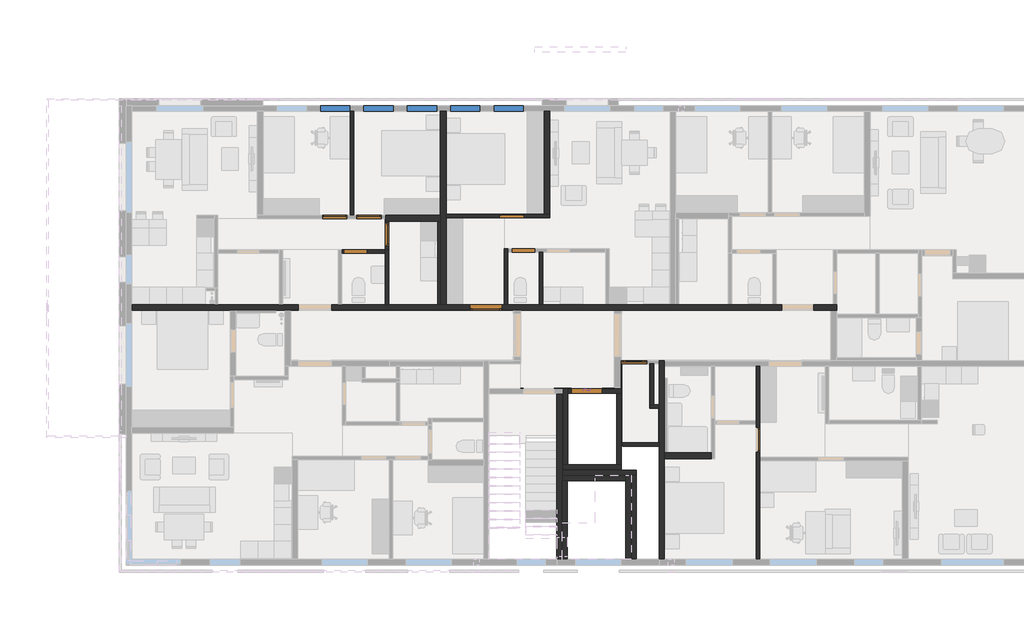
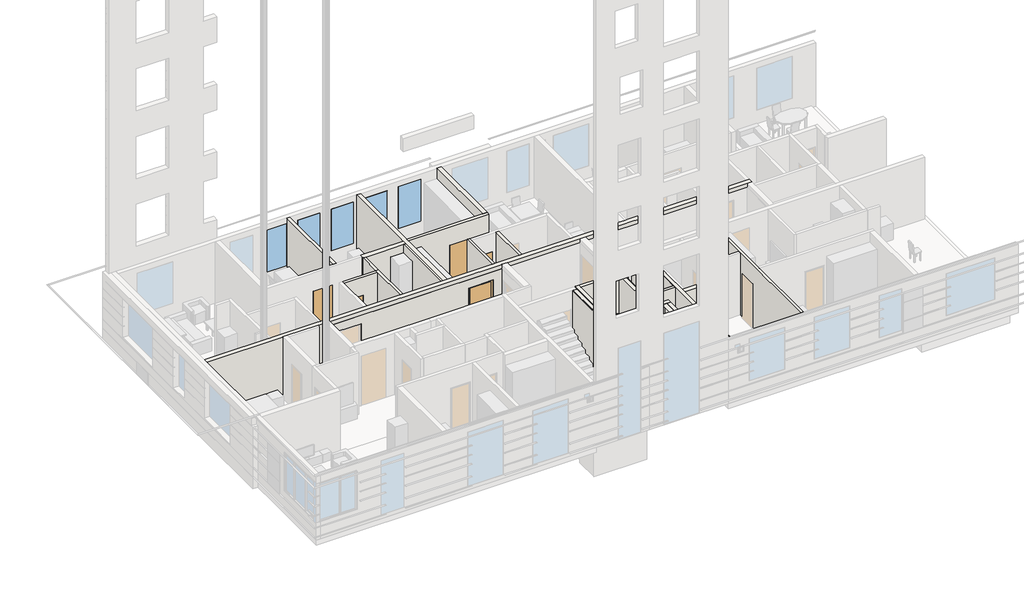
# One storey, part 5 of 11: 37 walls, 18 doors, 7 windows.
"""IFC4 building model written with IfcOpenShell, lengths in millimetres."""

from ifc_helpers import new_model, si_unit, frame, origin, place, context, project, spatial, polyline, circle_curve, outline, extrude, faceted_brep, transform, mapped, element, save
from ifc_brep_helpers import plane_surface, revolved_surface, advanced_brep
from components import door_1f93f5fc, door_d7ad1108, door_3b0bb860, door_b8e875bd, door_673f646d, door_87123fce, door_73803761, door_6199b08a, door_1132ae02, door_86771e29, window_19e0ad27, window_6752e5d0, window_588b83ed

model = new_model("IFC4")

# Units and contexts
model_context = context("Model", 3, world=origin())
ifc_project = project(units=[si_unit("LENGTHUNIT", "METRE", prefix="MILLI")], contexts=[model_context])

# Site, building, storey
site = spatial("IfcSite", under=ifc_project)
building = spatial("IfcBuilding", under=site)
storey = spatial("IfcBuildingStorey", under=building, Name="02_+4,400_Ж", Elevation=1200.0)

# Doors
placement = place(None, origin())
door_shape = door_1f93f5fc(model_context)
element("IfcDoor", 1, ObjectType="Dr_Проем-Простой : ДВ", at=placement, inside=storey, context=model_context, shape_type="MappedRepresentation", body=[
    mapped(door_shape, transform((142020.3230165, 120599.9999987, 1200.0), x_axis=(-1.0, 0.0, 0.0), y_axis=(0.0, -1.0, 0.0), z_axis=(0.0, 0.0, 1.0))),
])
door_2_shape = door_d7ad1108(model_context)
element("IfcDoor", 2, ObjectType="Dr_Проем-Простой : ДВ", at=placement, inside=storey, context=model_context, shape_type="MappedRepresentation", body=[
    mapped(door_2_shape, transform((146894.6769838, 118639.9999987, 1200.0), x_axis=(1.0, 0.0, 0.0), y_axis=(0.0, 1.0, 0.0), z_axis=(0.0, 0.0, 1.0))),
])
door_3_shape = door_3b0bb860(model_context)
element("IfcDoor", 3, ObjectType="Dr_Проем-Простой : ДВ", at=placement, inside=storey, context=model_context, shape_type="MappedRepresentation", body=[
    mapped(door_3_shape, transform((138277.5000001, 123400.3230151, 1200.0), x_axis=(0.0, -1.0, 0.0), y_axis=(1.0, 0.0, 0.0), z_axis=(0.0, 0.0, 1.0))),
])
element("IfcDoor", 4, ObjectType="Dr_Проем-Простой : ДВ", at=placement, inside=storey, context=model_context, shape_type="MappedRepresentation", body=[
    mapped(door_3_shape, transform((136959.6769838, 122592.4999987, 1200.0), x_axis=(1.0, 0.0, 0.0), y_axis=(0.0, 1.0, 0.0), z_axis=(0.0, 0.0, 1.0))),
])
element("IfcDoor", 5, ObjectType="Dr_Проем-Простой : ДВ", at=placement, inside=storey, context=model_context, shape_type="MappedRepresentation", body=[
    mapped(door_3_shape, transform((142950.1769838, 122637.4999987, 1200.0), x_axis=(1.0, 0.0, 0.0), y_axis=(0.0, 1.0, 0.0), z_axis=(0.0, 0.0, 1.0))),
])
door_4_shape = door_b8e875bd(model_context)
element("IfcDoor", 6, ObjectType="Dr_Проем-Простой : ДВ", at=placement, inside=storey, context=model_context, shape_type="MappedRepresentation", body=[
    mapped(door_4_shape, transform((136209.6769838, 123817.4999987, 1200.0), x_axis=(1.0, 0.0, 0.0), y_axis=(0.0, 1.0, 0.0), z_axis=(0.0, 0.0, 1.0))),
])
element("IfcDoor", 7, ObjectType="Dr_Проем-Простой : ДВ", at=placement, inside=storey, context=model_context, shape_type="MappedRepresentation", body=[
    mapped(door_4_shape, transform((142534.6769838, 123867.4999987, 1200.0), x_axis=(1.0, 0.0, 0.0), y_axis=(0.0, 1.0, 0.0), z_axis=(0.0, 0.0, 1.0))),
])
element("IfcDoor", 8, ObjectType="Dr_Проем-Простой : ДВ", at=placement, inside=storey, context=model_context, shape_type="MappedRepresentation", body=[
    mapped(door_4_shape, transform((137434.6769838, 123817.4999987, 1200.0), x_axis=(1.0, 0.0, 0.0), y_axis=(0.0, 1.0, 0.0), z_axis=(0.0, 0.0, 1.0))),
])
door_5_shape = door_673f646d(model_context)
element("IfcDoor", 9, ObjectType="Dr_Проем-Простой : ПР", at=placement, inside=storey, context=model_context, shape_type="MappedRepresentation", body=[
    mapped(door_5_shape, transform((145209.6769835, 117619.9999987, 1200.0), x_axis=(1.0, 0.0, 0.0), y_axis=(0.0, 1.0, 0.0), z_axis=(0.0, 0.0, 1.0))),
])
door_6_shape = door_87123fce(model_context)
element("IfcDoor", 10, ObjectType="Dr_Дверь_v2.1 : ДМ Мд1 Зв3 Оп Г Брг 21-9 Л", at=placement, inside=storey, context=model_context, shape_type="MappedRepresentation", body=[
    mapped(door_6_shape, transform((142615.0000001, 123867.4999987, 1200.0), x_axis=(1.0, 0.0, 0.0), y_axis=(0.0, 1.0, 0.0), z_axis=(0.0, 0.0, 1.0))),
])
door_7_shape = door_73803761(model_context)
element("IfcDoor", 11, ObjectType="Dr_Дверь_v2.1 : ДВПС Оп Г 24-11,5 Л EI30", at=placement, inside=storey, context=model_context, shape_type="MappedRepresentation", body=[
    mapped(door_7_shape, transform((141940.0000001, 120599.9999987, 1200.0), x_axis=(-1.0, 0.0, 0.0), y_axis=(0.0, -1.0, 0.0), z_axis=(0.0, 0.0, 1.0))),
])
door_8_shape = door_6199b08a(model_context)
element("IfcDoor", 12, ObjectType="Dr_Дверь_v2.1 : ДМ Мд1 Зв3 Оп Г Брг 21-9", at=placement, inside=storey, context=model_context, shape_type="MappedRepresentation", body=[
    mapped(door_8_shape, transform((137515.0000001, 123817.4999987, 1200.0), x_axis=(1.0, 0.0, 0.0), y_axis=(0.0, 1.0, 0.0), z_axis=(0.0, 0.0, 1.0))),
])
element("IfcDoor", 13, ObjectType="Dr_Дверь_v2.1 : ДМ Мд1 Зв3 Оп Г Брг 21-9 Л", at=placement, inside=storey, context=model_context, shape_type="MappedRepresentation", body=[
    mapped(door_6_shape, transform((136290.0000001, 123817.4999987, 1200.0), x_axis=(1.0, 0.0, 0.0), y_axis=(0.0, 1.0, 0.0), z_axis=(0.0, 0.0, 1.0))),
])
element("IfcDoor", 14, ObjectType="Dr_Дверь_v2.1 : ДМ Мд1 Зв3 Оп Г Брг 21-9 Л", at=placement, inside=storey, context=model_context, shape_type="MappedRepresentation", body=[
    mapped(door_6_shape, transform((151517.5000001, 115999.9999987, 1200.0), x_axis=(0.0, -1.0, 0.0), y_axis=(1.0, 0.0, 0.0), z_axis=(0.0, 0.0, 1.0))),
])
door_9_shape = door_1132ae02(model_context)
element("IfcDoor", 15, ObjectType="Dr_Дверь_v2.1 : ДС Мд1 Оп Г Брг 21-8", at=placement, inside=storey, context=model_context, shape_type="MappedRepresentation", body=[
    mapped(door_9_shape, transform((138277.5000001, 123319.9999987, 1200.0), x_axis=(0.0, -1.0, 0.0), y_axis=(1.0, 0.0, 0.0), z_axis=(0.0, 0.0, 1.0))),
])
element("IfcDoor", 16, ObjectType="Dr_Дверь_v2.1 : ДС Мд1 Оп Г Брг 21-8", at=placement, inside=storey, context=model_context, shape_type="MappedRepresentation", body=[
    mapped(door_9_shape, transform((137040.0000001, 122592.4999987, 1200.0), x_axis=(1.0, 0.0, 0.0), y_axis=(0.0, 1.0, 0.0), z_axis=(0.0, 0.0, 1.0))),
])
element("IfcDoor", 17, ObjectType="Dr_Дверь_v2.1 : ДС Мд1 Оп Г Брг 21-8", at=placement, inside=storey, context=model_context, shape_type="MappedRepresentation", body=[
    mapped(door_9_shape, transform((143030.5000001, 122637.4999987, 1200.0), x_axis=(1.0, 0.0, 0.0), y_axis=(0.0, 1.0, 0.0), z_axis=(0.0, 0.0, 1.0))),
])
door_10_shape = door_86771e29(model_context)
element("IfcDoor", 18, ObjectType="Dr_Дверь_v2.1 : ДВСГ Брг 21-9_с вент решеткой", at=placement, inside=storey, context=model_context, shape_type="MappedRepresentation", body=[
    mapped(door_10_shape, transform((146975.0000002, 118639.9999987, 1200.0), x_axis=(1.0, 0.0, 0.0), y_axis=(0.0, 1.0, 0.0), z_axis=(0.0, 0.0, 1.0))),
])

# Walls
element("IfcWall", 19, ObjectType="BW_SUB_GKL_INT_125_Тип П9.1-------", at=placement, inside=storey, context=model_context, shape_type="SweptSolid", body=[
    extrude(outline(polyline([(137090.0000001, 127599.9999987), (137090.0000001, 123879.9999987), (136965.0000001, 123879.9999987), (136965.0000001, 127599.9999987), (137090.0000001, 127599.9999987)])), frame((0.0, 0.0, 1180.0), z_axis=(0.0, 0.0, 1.0), x_axis=(1.0, 0.0, 0.0)), (0.0, 0.0, 1.0), 3020.0),
])
element("IfcWall", 20, ObjectType="BW_SUB_GKL_INT_210_Тип П10.2-------", at=placement, inside=storey, context=model_context, shape_type="Brep", body=[
    faceted_brep([(140190.0000001, 123879.9999987, 1180.0), (138215.0000001, 123879.9999987, 1180.0), (138215.0000001, 123879.9999987, 4200.0), (140190.0000001, 123879.9999987, 4200.0), (140190.0000001, 123669.9999987, 1180.0), (140190.0000001, 123669.9999987, 4200.0), (138340.0000001, 123669.9999987, 4200.0), (138215.0000001, 123669.9999987, 4200.0), (138215.0000001, 123669.9999987, 1180.0), (138340.0000001, 123669.9999987, 1180.0), (138215.0000001, 123754.9999987, 1180.0), (138215.0000001, 123754.9999987, 4200.0)], [[[0, 1, 2, 3]], [[4, 5, 6, 7, 8, 9]], [[1, 0, 4, 9, 8, 10]], [[3, 2, 11, 7, 6, 5]], [[0, 3, 5, 4]], [[2, 1, 10, 8, 7, 11]]]),
])
element("IfcWall", 21, ObjectType="BW_SUB_GKL_INT_125_Тип П9.3-------", at=placement, inside=storey, context=model_context, shape_type="Brep", body=[
    faceted_brep([(138340.0000001, 120699.9999987, 1180.0), (138340.0000001, 122654.9999987, 1180.0), (138340.0000001, 122654.9999987, 4200.0), (138340.0000001, 120699.9999987, 4200.0), (138215.0000001, 120699.9999987, 1180.0), (138215.0000001, 120699.9999987, 4200.0), (138215.0000001, 122529.9999987, 4200.0), (138215.0000001, 122654.9999987, 4200.0), (138215.0000001, 122654.9999987, 1180.0), (138215.0000001, 122529.9999987, 1180.0)], [[[0, 1, 2, 3]], [[4, 5, 6, 7, 8, 9]], [[1, 0, 4, 9, 8]], [[3, 2, 7, 6, 5]], [[0, 3, 5, 4]], [[2, 1, 8, 7]]]),
])
element("IfcWall", 22, ObjectType="BW_SUB_GKL_INT_125_Тип П9.2-------", at=placement, inside=storey, context=model_context, shape_type="SweptSolid", body=[
    extrude(outline(polyline([(4200.0, 138215.0000001), (4200.0, 136665.0000001), (1180.0, 136665.0000001), (1180.0, 136765.0000001), (3300.0, 136765.0000001), (3300.0, 137565.0000001), (1180.0, 137565.0000001), (1180.0, 138215.0000001), (4200.0, 138215.0000001)])), frame((0.0, 122529.9999987, 0.0), z_axis=(0.0, 1.0, 0.0), x_axis=(0.0, 0.0, 1.0)), (0.0, 0.0, 1.0), 125.0),
])
element("IfcWall", 23, ObjectType="BW_SUB_GKL_INT_125_Тип П9.1-------", at=placement, inside=storey, context=model_context, shape_type="Brep", body=[
    faceted_brep([(144100.0000001, 123804.9999987, 4200.0), (140390.0000001, 123804.9999987, 4200.0), (140390.0000001, 123804.9999987, 1180.0), (142290.0000001, 123804.9999987, 1180.0), (142290.0000001, 123804.9999987, 3300.0), (143190.0000001, 123804.9999987, 3300.0), (143190.0000001, 123804.9999987, 1180.0), (144100.0000001, 123804.9999987, 1180.0), (140390.0000001, 123929.9999987, 4200.0), (143890.0000001, 123929.9999987, 4200.0), (144100.0000001, 123929.9999987, 4200.0), (144100.0000001, 123929.9999987, 1180.0), (143890.0000001, 123929.9999987, 1180.0), (143190.0000001, 123929.9999987, 1180.0), (143190.0000001, 123929.9999987, 3300.0), (142290.0000001, 123929.9999987, 3300.0), (142290.0000001, 123929.9999987, 1180.0), (140390.0000001, 123929.9999987, 1180.0)], [[[0, 1, 2, 3, 4, 5, 6, 7]], [[8, 9, 10, 11, 12, 13, 14, 15, 16, 17]], [[2, 17, 16, 3]], [[11, 7, 6, 13, 12]], [[1, 0, 10, 9, 8]], [[2, 1, 8, 17]], [[15, 4, 3, 16]], [[5, 14, 13, 6]], [[4, 15, 14, 5]], [[0, 7, 11, 10]]]),
])
element("IfcWall", 24, ObjectType="BW_SUB_GKL_INT_210_Тип П10.1-------", at=placement, inside=storey, context=model_context, shape_type="SweptSolid", body=[
    extrude(outline(polyline([(143890.0000001, 123929.9999987), (143890.0000001, 127599.9999987), (144100.0000001, 127599.9999987), (144100.0000001, 123929.9999987), (143890.0000001, 123929.9999987)])), frame((0.0, 0.0, 1180.0), z_axis=(0.0, 0.0, 1.0), x_axis=(1.0, 0.0, 0.0)), (0.0, 0.0, 1.0), 3020.0),
])
element("IfcWall", 25, ObjectType="BW_SUB_GKL_INT_125_Тип П9.2-------", at=placement, inside=storey, context=model_context, shape_type="Brep", body=[
    faceted_brep([(142465.0000001, 122699.9999987, 1180.0), (142465.0000001, 120699.9999987, 1180.0), (142465.0000001, 120699.9999987, 4200.0), (142465.0000001, 122699.9999987, 4200.0), (142590.0000001, 122699.9999987, 1180.0), (142590.0000001, 122699.9999987, 4200.0), (142590.0000001, 122574.9999987, 4200.0), (142590.0000001, 120699.9999987, 4200.0), (142590.0000001, 120699.9999987, 1180.0), (142590.0000001, 122574.9999987, 1180.0)], [[[0, 1, 2, 3]], [[4, 5, 6, 7, 8, 9]], [[1, 0, 4, 9, 8]], [[2, 1, 8, 7]], [[3, 2, 7, 6, 5]], [[0, 3, 5, 4]]]),
])
element("IfcWall", 26, ObjectType="BW_SUB_GKL_INT_125_Тип П9.3-------", at=placement, inside=storey, context=model_context, shape_type="SweptSolid", body=[
    extrude(outline(polyline([(143840.0000001, 122574.9999987), (143840.0000001, 120699.9999987), (143715.0000001, 120699.9999987), (143715.0000001, 122574.9999987), (143840.0000001, 122574.9999987)])), frame((0.0, 0.0, 1180.0), z_axis=(0.0, 0.0, 1.0), x_axis=(1.0, 0.0, 0.0)), (0.0, 0.0, 1.0), 3020.0),
])
element("IfcWall", 27, ObjectType="BW_SUB_GKL_INT_125_Тип П9.1-------", at=placement, inside=storey, context=model_context, shape_type="Brep", body=[
    faceted_brep([(151580.0000001, 118499.9999987, 1180.0), (151580.0000001, 118499.9999987, 4200.0), (151580.0000001, 115244.9999987, 4200.0), (151580.0000001, 115119.9999987, 4200.0), (151580.0000001, 111599.9999987, 4200.0), (151580.0000001, 111599.9999987, 1180.0), (151580.0000001, 115119.9999987, 1180.0), (151580.0000001, 115244.9999987, 1180.0), (151580.0000001, 115424.9999987, 1180.0), (151580.0000001, 115424.9999987, 3300.0), (151580.0000001, 116324.9999987, 3300.0), (151580.0000001, 116324.9999987, 1180.0), (151455.0000001, 118499.9999987, 4200.0), (151455.0000001, 118499.9999987, 1180.0), (151455.0000001, 116549.9999987, 1180.0), (151455.0000001, 116424.9999987, 1180.0), (151455.0000001, 116324.9999987, 1180.0), (151455.0000001, 116324.9999987, 3300.0), (151455.0000001, 115424.9999987, 3300.0), (151455.0000001, 115424.9999987, 1180.0), (151455.0000001, 111599.9999987, 1180.0), (151455.0000001, 111599.9999987, 4200.0), (151455.0000001, 116424.9999987, 4200.0), (151455.0000001, 116549.9999987, 4200.0)], [[[0, 1, 2, 3, 4, 5, 6, 7, 8, 9, 10, 11]], [[12, 13, 14, 15, 16, 17, 18, 19, 20, 21, 22, 23]], [[13, 0, 11, 16, 15, 14]], [[5, 20, 19, 8, 7, 6]], [[1, 0, 13, 12]], [[4, 3, 2, 1, 12, 23, 22, 21]], [[5, 4, 21, 20]], [[10, 17, 16, 11]], [[18, 9, 8, 19]], [[17, 10, 9, 18]]]),
])
element("IfcWall", 28, ObjectType="BW_SUB_GKL_INT_210_Тип П10.2-------", at=placement, inside=storey, context=model_context, shape_type="SweptSolid", body=[
    extrude(outline(polyline([(148180.0000001, 115409.9999987), (149850.0000001, 115409.9999987), (149850.0000001, 115199.9999987), (148180.0000001, 115199.9999987), (148180.0000001, 115409.9999987)])), frame((0.0, 0.0, 1180.0), z_axis=(0.0, 0.0, 1.0), x_axis=(1.0, 0.0, 0.0)), (0.0, 0.0, 1.0), 3020.0),
])
element("IfcWall", 29, ObjectType="BW_SUB_SKZ_INT_80+20=100_Тип П12-------", at=placement, inside=storey, context=model_context, shape_type="SweptSolid", body=[
    extrude(outline(polyline([(140190.0000001, 123669.9999987), (140190.0000001, 120699.9999987), (140090.0000001, 120699.9999987), (140090.0000001, 123669.9999987), (140190.0000001, 123669.9999987)])), frame((0.0, 0.0, 1100.0), z_axis=(0.0, 0.0, 1.0), x_axis=(1.0, 0.0, 0.0)), (0.0, 0.0, 1.0), 3100.0),
])
element("IfcWall", 30, ObjectType="BW_THR_EXT_180+10=190_Тип С4-------", at=placement, inside=storey, context=model_context, shape_type="Brep", body=[
    faceted_brep([(147000.0000001, 111599.9999987, 1100.0), (147000.0000001, 114599.9999987, 1100.0), (147000.0000001, 114599.9999987, 4400.0), (147000.0000001, 111599.9999987, 4400.0), (146810.0000001, 111599.9999987, 1100.0), (146810.0000001, 111599.9999987, 4400.0), (146810.0000001, 114409.9999987, 4400.0), (146810.0000001, 114599.9999987, 4400.0), (146810.0000001, 114599.9999987, 2700.0), (146810.0000001, 114599.9999987, 2450.0), (146810.0000001, 114599.9999987, 1100.0), (146810.0000001, 114409.9999987, 1100.0)], [[[0, 1, 2, 3]], [[4, 5, 6, 7, 8, 9, 10, 11]], [[1, 0, 4, 11, 10]], [[3, 2, 7, 6, 5]], [[0, 3, 5, 4]], [[2, 1, 10, 9, 8, 7]]]),
])
element("IfcWall", 31, ObjectType="BW_THR_EXT_180+10=190_Тип С4-------", at=placement, inside=storey, context=model_context, shape_type="SweptSolid", body=[
    extrude(outline(polyline([(146810.0000001, 114409.9999987), (145710.0000002, 114409.9999987), (145710.0000002, 114599.9999987), (146810.0000001, 114599.9999987), (146810.0000001, 114409.9999987)])), frame((0.0, 0.0, 1100.0), z_axis=(0.0, 0.0, 1.0), x_axis=(1.0, 0.0, 0.0)), (0.0, 0.0, 1.0), 1350.0),
    extrude(outline(polyline([(146810.0000001, 114409.9999987), (145710.0000002, 114409.9999987), (145710.0000002, 114599.9999987), (146810.0000001, 114599.9999987), (146810.0000001, 114409.9999987)])), frame((0.0, 0.0, 2700.0), z_axis=(0.0, 0.0, 1.0), x_axis=(1.0, 0.0, 0.0)), (0.0, 0.0, 1.0), 1700.0),
])
element("IfcWall", 32, ObjectType="BW_SUB_BrF_INT_120_Тип П1-------", at=placement, inside=storey, context=model_context, shape_type="SweptSolid", body=[
    extrude(outline(polyline([(148000.0000001, 115639.9999987), (146700.0000001, 115639.9999987), (146700.0000001, 115759.9999987), (148000.0000001, 115759.9999987), (148000.0000001, 115639.9999987)])), frame((0.0, 0.0, 1100.0), z_axis=(0.0, 0.0, 1.0), x_axis=(1.0, 0.0, 0.0)), (0.0, 0.0, 1.0), 3100.0),
])
element("IfcWall", 33, ObjectType="BW_SUB_BrF_INT_120_Тип П1-------", at=placement, inside=storey, context=model_context, shape_type="SweptSolid", body=[
    extrude(outline(polyline([(147800.0000001, 118579.9999987), (147800.0000001, 117129.9999987), (147680.0000001, 117129.9999987), (147680.0000001, 118579.9999987), (147800.0000001, 118579.9999987)])), frame((0.0, 0.0, 1100.0), z_axis=(0.0, 0.0, 1.0), x_axis=(1.0, 0.0, 0.0)), (0.0, 0.0, 1.0), 3100.0),
])
element("IfcWall", 34, ObjectType="BW_SUB_BrF_INT_120_Тип П1-------", at=placement, inside=storey, context=model_context, shape_type="Brep", body=[
    faceted_brep([(147680.0000001, 117009.9999987, 1100.0), (148000.0000001, 117009.9999987, 1100.0), (148000.0000001, 117009.9999987, 1200.0), (148000.0000001, 117009.9999987, 4200.0), (147680.0000001, 117009.9999987, 4200.0), (147680.0000001, 117129.9999987, 1100.0), (147680.0000001, 117129.9999987, 4200.0), (147800.0000001, 117129.9999987, 4200.0), (148000.0000001, 117129.9999987, 4200.0), (148000.0000001, 117129.9999987, 1100.0), (147800.0000001, 117129.9999987, 1100.0)], [[[0, 1, 2, 3, 4]], [[5, 6, 7, 8, 9, 10]], [[1, 0, 5, 10, 9]], [[3, 2, 1, 9, 8]], [[4, 3, 8, 7, 6]], [[0, 4, 6, 5]]]),
])
element("IfcWall", 35, ObjectType="BW_FN2_10_внутр отделка МОП-------", at=placement, inside=storey, context=model_context, shape_type="Brep", body=[
    faceted_brep([(146400.0000002, 117699.9999987, 4000.0), (143055.0000002, 117699.9999987, 4000.0), (143055.0000002, 117699.9999987, 1200.0), (143150.0000001, 117699.9999987, 1200.0), (143150.0000001, 117699.9999987, 3300.0), (144250.0000001, 117699.9999987, 3300.0), (144250.0000001, 117699.9999987, 1200.0), (144864.9999999, 117699.9999987, 1200.0), (144864.9999999, 117699.9999987, 3410.0), (145964.9999999, 117699.9999987, 3410.0), (145964.9999999, 117699.9999987, 1200.0), (146400.0000002, 117699.9999987, 1200.0), (143055.0000002, 117709.9999987, 4000.0), (146390.0000002, 117709.9999987, 4000.0), (146400.0000002, 117709.9999987, 4000.0), (146400.0000002, 117709.9999987, 1200.0), (146390.0000002, 117709.9999987, 1200.0), (145964.9999999, 117709.9999987, 1200.0), (145964.9999999, 117709.9999987, 3410.0), (144864.9999999, 117709.9999987, 3410.0), (144864.9999999, 117709.9999987, 1200.0), (144250.0000001, 117709.9999987, 1200.0), (144250.0000001, 117709.9999987, 3300.0), (143150.0000001, 117709.9999987, 3300.0), (143150.0000001, 117709.9999987, 1200.0), (143055.0000002, 117709.9999987, 1200.0)], [[[0, 1, 2, 3, 4, 5, 6, 7, 8, 9, 10, 11]], [[12, 13, 14, 15, 16, 17, 18, 19, 20, 21, 22, 23, 24, 25]], [[2, 25, 24, 3]], [[15, 11, 10, 17, 16]], [[20, 7, 6, 21]], [[1, 0, 14, 13, 12]], [[2, 1, 12, 25]], [[0, 11, 15, 14]], [[19, 8, 7, 20]], [[9, 18, 17, 10]], [[8, 19, 18, 9]], [[23, 4, 3, 24]], [[5, 22, 21, 6]], [[4, 23, 22, 5]]]),
])
element("IfcWall", 36, ObjectType="BW_FN2_10_внутр отделка МОП-------", at=placement, inside=storey, context=model_context, shape_type="Brep", body=[
    faceted_brep([(134840.0000001, 120499.9999987, 4000.0), (142800.0000002, 120499.9999987, 4000.0), (142800.0000002, 120499.9999987, 1200.0), (142390.0000001, 120499.9999987, 1200.0), (142390.0000001, 120499.9999987, 3600.0), (141240.0000001, 120499.9999987, 3600.0), (141240.0000001, 120499.9999987, 1200.0), (136290.0000001, 120499.9999987, 1200.0), (136290.0000001, 120499.9999987, 3600.0), (135140.0000001, 120499.9999987, 3600.0), (135140.0000001, 120499.9999987, 1200.0), (134840.0000001, 120499.9999987, 1200.0), (142800.0000002, 120489.9999987, 4000.0), (142790.0000002, 120489.9999987, 4000.0), (134850.0000001, 120489.9999987, 4000.0), (134840.0000001, 120489.9999987, 4000.0), (134840.0000001, 120489.9999987, 1200.0), (134850.0000001, 120489.9999987, 1200.0), (135140.0000001, 120489.9999987, 1200.0), (135140.0000001, 120489.9999987, 3600.0), (136290.0000001, 120489.9999987, 3600.0), (136290.0000001, 120489.9999987, 1200.0), (141240.0000001, 120489.9999987, 1200.0), (141240.0000001, 120489.9999987, 3600.0), (142390.0000001, 120489.9999987, 3600.0), (142390.0000001, 120489.9999987, 1200.0), (142790.0000002, 120489.9999987, 1200.0), (142800.0000002, 120489.9999987, 1200.0)], [[[0, 1, 2, 3, 4, 5, 6, 7, 8, 9, 10, 11]], [[12, 13, 14, 15, 16, 17, 18, 19, 20, 21, 22, 23, 24, 25, 26, 27]], [[2, 27, 26, 25, 3]], [[16, 11, 10, 18, 17]], [[6, 22, 21, 7]], [[1, 0, 15, 14, 13, 12]], [[2, 1, 12, 27]], [[0, 11, 16, 15]], [[24, 4, 3, 25]], [[5, 23, 22, 6]], [[4, 24, 23, 5]], [[20, 8, 7, 21]], [[9, 19, 18, 10]], [[8, 20, 19, 9]]]),
])
element("IfcWall", 37, ObjectType="BW_FN2_10_внутр отделка ЛК-------", at=placement, inside=storey, context=model_context, shape_type="Brep", body=[
    faceted_brep([(144340.0000001, 117509.9999987, 1200.0), (144340.0000001, 115749.9999989, 1200.0), (144340.0000001, 115749.9999989, 1350.0), (144340.0000001, 115449.9999989, 1350.0), (144340.0000001, 115449.9999989, 1500.0), (144340.0000001, 115149.9999989, 1500.0), (144340.0000001, 115149.9999989, 1650.0), (144340.0000001, 114849.9999989, 1650.0), (144340.0000001, 114849.9999989, 1800.0), (144340.0000001, 114549.9999989, 1800.0), (144340.0000001, 114549.9999989, 1950.0), (144340.0000001, 114249.9999989, 1950.0), (144340.0000001, 114249.9999989, 2100.0), (144340.0000001, 113949.9999989, 2100.0), (144340.0000001, 113949.9999989, 2250.0), (144340.0000001, 113649.9999989, 2250.0), (144340.0000001, 113649.9999989, 2400.0), (144340.0000001, 113349.9999989, 2400.0), (144340.0000001, 113349.9999989, 2550.0), (144340.0000001, 113049.9999989, 2550.0), (144340.0000001, 113049.9999989, 2700.0), (144340.0000001, 112749.9999989, 2700.0), (144340.0000001, 112749.9999989, 2850.0), (144340.0000001, 111609.9999987, 2850.0), (144340.0000001, 111599.9999987, 2850.0), (144340.0000001, 111599.9999987, 5900.0), (144340.0000001, 111609.9999987, 5900.0), (144340.0000001, 112614.5898022, 5900.0), (144340.0000001, 115939.9999989, 4237.2949017), (144340.0000001, 115939.9999989, 4200.0), (144340.0000001, 117509.9999987, 4200.0), (144350.0000001, 115749.9999989, 1200.0), (144350.0000001, 117509.9999987, 1200.0), (144350.0000001, 117509.9999987, 4200.0), (144350.0000001, 115939.9999989, 4200.0), (144350.0000001, 115939.9999989, 4237.2949017), (144350.0000001, 112614.5898022, 5900.0), (144350.0000001, 111599.9999987, 5900.0), (144350.0000001, 111599.9999987, 4400.0), (144350.0000001, 111599.9999987, 2850.0), (144350.0000001, 112749.9999989, 2850.0), (144350.0000001, 112749.9999989, 2700.0), (144350.0000001, 113049.9999989, 2700.0), (144350.0000001, 113049.9999989, 2550.0), (144350.0000001, 113349.9999989, 2550.0), (144350.0000001, 113349.9999989, 2400.0), (144350.0000001, 113649.9999989, 2400.0), (144350.0000001, 113649.9999989, 2250.0), (144350.0000001, 113949.9999989, 2250.0), (144350.0000001, 113949.9999989, 2100.0), (144350.0000001, 114249.9999989, 2100.0), (144350.0000001, 114249.9999989, 1950.0), (144350.0000001, 114549.9999989, 1950.0), (144350.0000001, 114549.9999989, 1800.0), (144350.0000001, 114849.9999989, 1800.0), (144350.0000001, 114849.9999989, 1650.0), (144350.0000001, 115149.9999989, 1650.0), (144350.0000001, 115149.9999989, 1500.0), (144350.0000001, 115449.9999989, 1500.0), (144350.0000001, 115449.9999989, 1350.0), (144350.0000001, 115749.9999989, 1350.0)], [[[0, 1, 2, 3, 4, 5, 6, 7, 8, 9, 10, 11, 12, 13, 14, 15, 16, 17, 18, 19, 20, 21, 22, 23, 24, 25, 26, 27, 28, 29, 30]], [[31, 32, 33, 34, 35, 36, 37, 38, 39, 40, 41, 42, 43, 44, 45, 46, 47, 48, 49, 50, 51, 52, 53, 54, 55, 56, 57, 58, 59, 60]], [[1, 0, 32, 31]], [[30, 29, 34, 33]], [[2, 1, 31, 60]], [[3, 2, 60, 59]], [[4, 3, 59, 58]], [[5, 4, 58, 57]], [[6, 5, 57, 56]], [[7, 6, 56, 55]], [[8, 7, 55, 54]], [[9, 8, 54, 53]], [[10, 9, 53, 52]], [[11, 10, 52, 51]], [[12, 11, 51, 50]], [[13, 12, 50, 49]], [[14, 13, 49, 48]], [[15, 14, 48, 47]], [[16, 15, 47, 46]], [[17, 16, 46, 45]], [[18, 17, 45, 44]], [[19, 18, 44, 43]], [[20, 19, 43, 42]], [[21, 20, 42, 41]], [[22, 21, 41, 40]], [[24, 23, 22, 40, 39]], [[27, 26, 25, 37, 36]], [[28, 27, 36, 35]], [[29, 28, 35, 34]], [[0, 30, 33, 32]], [[25, 24, 39, 38, 37]]]),
])
element("IfcWall", 38, ObjectType="BW_FN2_10_внутр отделка тех.пом поэтажные-------", at=placement, inside=storey, context=model_context, shape_type="Brep", body=[
    faceted_brep([(146650.0000001, 115759.9999987, 1200.0), (147990.0000001, 115759.9999987, 1200.0), (147990.0000001, 115759.9999987, 4200.0), (146650.0000001, 115759.9999987, 4200.0), (146650.0000001, 115769.9999987, 1200.0), (146650.0000001, 115769.9999987, 4200.0), (146660.0000001, 115769.9999987, 4200.0), (147990.0000001, 115769.9999987, 4200.0), (147990.0000001, 115769.9999987, 1200.0), (146660.0000001, 115769.9999987, 1200.0)], [[[0, 1, 2, 3]], [[4, 5, 6, 7, 8, 9]], [[1, 0, 4, 9, 8]], [[3, 2, 7, 6, 5]], [[2, 1, 8, 7]], [[0, 3, 5, 4]]]),
])
element("IfcWall", 39, ObjectType="BW_FN2_10_внутр отделка тех.пом поэтажные-------", at=placement, inside=storey, context=model_context, shape_type="Brep", body=[
    faceted_brep([(146650.0000001, 118569.9999987, 1200.0), (146650.0000001, 115769.9999987, 1200.0), (146650.0000001, 115769.9999987, 4200.0), (146650.0000001, 118569.9999987, 4200.0), (146650.0000001, 118569.9999987, 4000.0), (146650.0000001, 118569.9999987, 3300.0), (146660.0000001, 118569.9999987, 1200.0), (146660.0000001, 118569.9999987, 4200.0), (146660.0000001, 115769.9999987, 4200.0), (146660.0000001, 115769.9999987, 1200.0)], [[[0, 1, 2, 3, 4, 5]], [[6, 7, 8, 9]], [[1, 0, 6, 9]], [[3, 2, 8, 7]], [[2, 1, 9, 8]], [[0, 5, 4, 3, 7, 6]]]),
])
element("IfcWall", 40, ObjectType="BW_FN2_10_внутр отделка тех.пом поэтажные-------", at=placement, inside=storey, context=model_context, shape_type="Brep", body=[
    faceted_brep([(148000.0000001, 117009.9999987, 1200.0), (147680.0000001, 117009.9999987, 1200.0), (147670.0000001, 117009.9999987, 1200.0), (147670.0000001, 117009.9999987, 4000.0), (147670.0000001, 117009.9999987, 4200.0), (147680.0000001, 117009.9999987, 4200.0), (148000.0000001, 117009.9999987, 4200.0), (148000.0000001, 116999.9999987, 1200.0), (148000.0000001, 116999.9999987, 4200.0), (147990.0000001, 116999.9999987, 4200.0), (147670.0000001, 116999.9999987, 4200.0), (147670.0000001, 116999.9999987, 1200.0), (147990.0000001, 116999.9999987, 1200.0)], [[[0, 1, 2, 3, 4, 5, 6]], [[7, 8, 9, 10, 11, 12]], [[2, 1, 0, 7, 12, 11]], [[6, 5, 4, 10, 9, 8]], [[0, 6, 8, 7]], [[4, 3, 2, 11, 10]]]),
])
element("IfcWall", 41, ObjectType="BW_FN2_10_внутр отделка тех.пом поэтажные-------", at=placement, inside=storey, context=model_context, shape_type="Brep", body=[
    faceted_brep([(148000.0000001, 115759.9999987, 1200.0), (148000.0000001, 116999.9999987, 1200.0), (148000.0000001, 116999.9999987, 4200.0), (148000.0000001, 115759.9999987, 4200.0), (147990.0000001, 115759.9999987, 1200.0), (147990.0000001, 115759.9999987, 4200.0), (147990.0000001, 115769.9999987, 4200.0), (147990.0000001, 116999.9999987, 4200.0), (147990.0000001, 116999.9999987, 1200.0), (147990.0000001, 115769.9999987, 1200.0)], [[[0, 1, 2, 3]], [[4, 5, 6, 7, 8, 9]], [[1, 0, 4, 9, 8]], [[3, 2, 7, 6, 5]], [[0, 3, 5, 4]], [[2, 1, 8, 7]]]),
])
element("IfcWall", 42, ObjectType="BW_FN2_10_внутр отделка тех.пом поэтажные-------", at=placement, inside=storey, context=model_context, shape_type="Brep", body=[
    faceted_brep([(147670.0000001, 118579.9999987, 1200.0), (147670.0000001, 118569.9999987, 1200.0), (147670.0000001, 117009.9999987, 1200.0), (147670.0000001, 117009.9999987, 4000.0), (147670.0000001, 118569.9999987, 4000.0), (147670.0000001, 118579.9999987, 4000.0), (147680.0000001, 118579.9999987, 1200.0), (147680.0000001, 118579.9999987, 4000.0), (147680.0000001, 117009.9999987, 4000.0), (147680.0000001, 117009.9999987, 1200.0)], [[[0, 1, 2, 3, 4, 5]], [[6, 7, 8, 9]], [[2, 1, 0, 6, 9]], [[5, 4, 3, 8, 7]], [[0, 5, 7, 6]], [[3, 2, 9, 8]]]),
])
element("IfcWall", 43, ObjectType="BW_SUB_GKL_INT_125_Тип П9.2-------", at=placement, inside=storey, context=model_context, shape_type="SweptSolid", body=[
    extrude(outline(polyline([(122654.9999987, 4200.0), (123669.9999987, 4200.0), (123669.9999987, 1180.0), (123594.9999987, 1180.0), (123594.9999987, 3300.0), (122794.9999987, 3300.0), (122794.9999987, 1180.0), (122654.9999987, 1180.0), (122654.9999987, 4200.0)])), frame((138215.0000001, 0.0, 0.0), z_axis=(1.0, 0.0, 0.0), x_axis=(0.0, 1.0, 0.0)), (0.0, 0.0, 1.0), 125.0),
])
element("IfcWall", 44, ObjectType="BW_THR_EXT_180+10=190_Тип С4-------", at=placement, inside=storey, context=model_context, shape_type="Brep", body=[
    faceted_brep([(146810.0000001, 114599.9999987, 1100.0), (144530.0000001, 114599.9999987, 1100.0), (144530.0000001, 114599.9999987, 4400.0), (146810.0000001, 114599.9999987, 4400.0), (146810.0000001, 114409.9999987, 1100.0), (146810.0000001, 114409.9999987, 4400.0), (144720.0000001, 114409.9999987, 4400.0), (144530.0000001, 114409.9999987, 4400.0), (144530.0000001, 114409.9999987, 1100.0), (144720.0000001, 114409.9999987, 1100.0)], [[[0, 1, 2, 3]], [[4, 5, 6, 7, 8, 9]], [[1, 0, 4, 9, 8]], [[3, 2, 7, 6, 5]], [[0, 3, 5, 4]], [[2, 1, 8, 7]]]),
])
element("IfcWall", 45, ObjectType="BW_THR_EXT_180+10=190_Тип С4-------", at=placement, inside=storey, context=model_context, shape_type="SweptSolid", body=[
    extrude(outline(polyline([(144530.0000001, 111599.9999987), (144530.0000001, 114409.9999987), (144720.0000001, 114409.9999987), (144720.0000001, 111599.9999987), (144530.0000001, 111599.9999987)])), frame((0.0, 0.0, 1100.0), z_axis=(0.0, 0.0, 1.0), x_axis=(1.0, 0.0, 0.0)), (0.0, 0.0, 1.0), 3300.0),
])
element("IfcWall", 46, ObjectType="BW_STR_CIP_UP_INT_160-------", at=placement, inside=storey, context=model_context, shape_type="AdvancedBrep", body=[
    advanced_brep(
    [(144740.0000001, 117539.9999987, 850.0), (146490.0000001, 117539.9999987, 850.0), (146650.0000001, 117539.9999987, 850.0), (146650.0000001, 117539.9999987, 4200.0), (146490.0000001, 117539.9999987, 4200.0), (144740.0000001, 117539.9999987, 4200.0), (144864.9999999, 117539.9999987, 1150.0), (144864.9999999, 117539.9999987, 3410.0), (145964.9999999, 117539.9999987, 3410.0), (145964.9999999, 117539.9999987, 1150.0), (146185.0000002, 117539.9999987, 2195.0), (146145.0000002, 117539.9999987, 2195.0), (145435.0000002, 117539.9999987, 3567.7377311), (145395.0000002, 117539.9999987, 3567.7377311), (146650.0000001, 117699.9999987, 850.0), (144740.0000001, 117699.9999987, 850.0), (144740.0000001, 117699.9999987, 4200.0), (146650.0000001, 117699.9999987, 4200.0), (144864.9999999, 117699.9999987, 3410.0), (144864.9999999, 117699.9999987, 1150.0), (145964.9999999, 117699.9999987, 1150.0), (145964.9999999, 117699.9999987, 3410.0), (145530.0000002, 117699.9999987, 3623.2622689), (145300.0000002, 117699.9999987, 3623.2622689), (145300.0000002, 117699.9999987, 3513.2622689), (145530.0000002, 117699.9999987, 3513.2622689), (146219.9999999, 117699.9999987, 2342.7622689), (146109.9999999, 117699.9999987, 2342.7622689), (146109.9999999, 117699.9999987, 2047.7622689), (146219.9999999, 117699.9999987, 2047.7622689), (146185.0000002, 117629.9999987, 2195.0), (146145.0000002, 117629.9999987, 2195.0), (145435.0000002, 117629.9999987, 3567.7377311), (145395.0000002, 117629.9999987, 3567.7377311), (145300.0000002, 117629.9999987, 3623.2622689), (145530.0000002, 117629.9999987, 3623.2622689), (145300.0000002, 117629.9999987, 3513.2622689), (145530.0000002, 117629.9999987, 3513.2622689), (146109.9999999, 117629.9999987, 2342.7622689), (146219.9999999, 117629.9999987, 2342.7622689), (146109.9999999, 117629.9999987, 2047.7622689), (146219.9999999, 117629.9999987, 2047.7622689)],
    [
        (0, 1),
        (1, 2),
        (2, 3),
        (3, 4),
        (4, 5),
        (5, 0),
        (6, 7),
        (7, 8),
        (8, 9),
        (9, 6),
        (10, 11, circle_curve(frame((146165.0000002, 117539.9999987, 2195.0), z_axis=(0.0, 1.0, 0.0), x_axis=(-1.0, 0.0, 0.0)), 20.0)),
        (11, 10, circle_curve(frame((146165.0000002, 117539.9999987, 2195.0), z_axis=(0.0, 1.0, 0.0), x_axis=(-1.0, 0.0, 0.0)), 20.0)),
        (12, 13, circle_curve(frame((145415.0000002, 117539.9999987, 3567.7377311), z_axis=(0.0, 1.0, 0.0), x_axis=(-1.0, 0.0, 0.0)), 20.0)),
        (13, 12, circle_curve(frame((145415.0000002, 117539.9999987, 3567.7377311), z_axis=(0.0, 1.0, 0.0), x_axis=(-1.0, 0.0, 0.0)), 20.0)),
        (14, 15),
        (15, 16),
        (16, 17),
        (17, 14),
        (18, 19),
        (19, 20),
        (20, 21),
        (21, 18),
        (22, 23),
        (23, 24),
        (24, 25),
        (25, 22),
        (26, 27),
        (27, 28),
        (28, 29),
        (29, 26),
        (18, 7),
        (6, 19),
        (9, 20),
        (8, 21),
        (0, 15),
        (14, 2),
        (3, 17),
        (16, 5),
        (10, 30),
        (30, 31, circle_curve(frame((146165.0000002, 117629.9999987, 2195.0), z_axis=(0.0, 1.0, 0.0), x_axis=(-1.0, 0.0, 0.0)), 20.0)),
        (31, 11),
        (31, 30, circle_curve(frame((146165.0000002, 117629.9999987, 2195.0), z_axis=(0.0, 1.0, 0.0), x_axis=(-1.0, 0.0, 0.0)), 20.0)),
        (12, 32),
        (32, 33, circle_curve(frame((145415.0000002, 117629.9999987, 3567.7377311), z_axis=(0.0, 1.0, 0.0), x_axis=(-1.0, 0.0, 0.0)), 20.0)),
        (33, 13),
        (33, 32, circle_curve(frame((145415.0000002, 117629.9999987, 3567.7377311), z_axis=(0.0, 1.0, 0.0), x_axis=(-1.0, 0.0, 0.0)), 20.0)),
        (34, 23),
        (22, 35),
        (35, 34),
        (36, 37),
        (37, 25),
        (24, 36),
        (35, 37),
        (36, 34),
        (38, 27),
        (26, 39),
        (39, 38),
        (40, 41),
        (41, 29),
        (28, 40),
        (39, 41),
        (40, 38),
    ],
    [
        plane_surface(frame((144660.0000001, 117539.9999987, 850.0), z_axis=(0.0, -1.0, 0.0), x_axis=(1.0, 0.0, 0.0))),
        plane_surface(frame((144660.0000001, 117699.9999987, 850.0), z_axis=(0.0, 1.0, 0.0), x_axis=(-1.0, 0.0, 0.0))),
        plane_surface(frame((144864.9999999, 117239.9999987, 3410.0), z_axis=(1.0, 0.0, 0.0), x_axis=(0.0, 1.0, 0.0))),
        plane_surface(frame((144864.9999999, 117239.9999987, 1150.0), z_axis=(0.0, 0.0, 1.0), x_axis=(0.0, 1.0, 0.0))),
        plane_surface(frame((145964.9999999, 117239.9999987, 1150.0), z_axis=(-1.0, 0.0, 0.0), x_axis=(0.0, 1.0, 0.0))),
        plane_surface(frame((145964.9999999, 117239.9999987, 3410.0), z_axis=(0.0, 0.0, -1.0), x_axis=(0.0, 1.0, 0.0))),
        plane_surface(frame((144660.0000001, 117539.9999987, 850.0), z_axis=(0.0, 0.0, -1.0), x_axis=(0.0, 1.0, 0.0))),
        plane_surface(frame((146570.0000001, 117539.9999987, 4200.0), z_axis=(0.0, 0.0, 1.0), x_axis=(0.0, 1.0, 0.0))),
        revolved_surface(polyline([(146145.0000002, 117629.9999987, 2195.0), (146145.0000002, 117539.9999987, 2195.0)]), (146165.0000002, 117619.9999987, 2195.0), (0.0, 1.0, 0.0)),
        revolved_surface(polyline([(145395.0000002, 117629.9999987, 3567.7377311), (145395.0000002, 117539.9999987, 3567.7377311)]), (145415.0000002, 117619.9999987, 3567.7377311), (0.0, 1.0, 0.0)),
        plane_surface(frame((146650.0000001, 113639.9999987, 850.0), z_axis=(1.0, 0.0, 0.0), x_axis=(0.0, 1.0, 0.0))),
        plane_surface(frame((144740.0000001, 113799.9999987, 850.0), z_axis=(-1.0, 0.0, 0.0), x_axis=(0.0, 1.0, 0.0))),
        plane_surface(frame((145530.0000002, 117629.9999987, 3623.2622689), z_axis=(0.0, 0.0, -1.0), x_axis=(1.0, 0.0, 0.0))),
        plane_surface(frame((145530.0000002, 117629.9999987, 3513.2622689), z_axis=(0.0, 0.0, 1.0), x_axis=(-1.0, 0.0, 0.0))),
        plane_surface(frame((145300.0000002, 117629.9999987, 3623.2622689), z_axis=(0.0, 1.0, 0.0), x_axis=(0.0, 0.0, -1.0))),
        plane_surface(frame((145530.0000002, 117629.9999987, 3623.2622689), z_axis=(-1.0, 0.0, 0.0), x_axis=(0.0, 0.0, -1.0))),
        plane_surface(frame((145300.0000002, 117699.9999987, 3623.2622689), z_axis=(1.0, 0.0, 0.0), x_axis=(0.0, 0.0, -1.0))),
        plane_surface(frame((146219.9999999, 117629.9999987, 2342.7622689), z_axis=(0.0, 0.0, -1.0), x_axis=(1.0, 0.0, 0.0))),
        plane_surface(frame((146219.9999999, 117629.9999987, 2047.7622689), z_axis=(0.0, 0.0, 1.0), x_axis=(-1.0, 0.0, 0.0))),
        plane_surface(frame((146109.9999999, 117629.9999987, 2342.7622689), z_axis=(0.0, 1.0, 0.0), x_axis=(0.0, 0.0, -1.0))),
        plane_surface(frame((146219.9999999, 117629.9999987, 2342.7622689), z_axis=(-1.0, 0.0, 0.0), x_axis=(0.0, 0.0, -1.0))),
        plane_surface(frame((146109.9999999, 117699.9999987, 2342.7622689), z_axis=(1.0, 0.0, 0.0), x_axis=(0.0, 0.0, -1.0))),
    ],
    [
        (0, [[1, 2, 3, 4, 5, 6], [7, 8, 9, 10], [11, 12], [13, 14]]),
        (1, [[15, 16, 17, 18], [19, 20, 21, 22], [23, 24, 25, 26], [27, 28, 29, 30]]),
        (2, [[31, -7, 32, -19]]),
        (3, [[-32, -10, 33, -20]]),
        (4, [[-33, -9, 34, -21]]),
        (5, [[-31, -22, -34, -8]]),
        (6, [[-2, -1, 35, -15, 36]]),
        (7, [[-5, -4, 37, -17, 38]]),
        (8, [[-11, 39, 40, 41]]),
        (8, [[-12, -41, 42, -39]]),
        (9, [[-13, 43, 44, 45]]),
        (9, [[-14, -45, 46, -43]]),
        (10, [[-3, -36, -18, -37]]),
        (11, [[-6, -38, -16, -35]]),
        (12, [[47, -23, 48, 49]]),
        (13, [[50, 51, -25, 52]]),
        (14, [[-49, 53, -50, 54], [-44, -46]]),
        (15, [[-48, -26, -51, -53]]),
        (16, [[-47, -54, -52, -24]]),
        (17, [[55, -27, 56, 57]]),
        (18, [[58, 59, -29, 60]]),
        (19, [[-57, 61, -58, 62], [-40, -42]]),
        (20, [[-56, -30, -59, -61]]),
        (21, [[-55, -62, -60, -28]]),
    ],
),
])
element("IfcWall", 47, ObjectType="BW_STR_CIP_UP_INT_160-------", at=placement, inside=storey, context=model_context, shape_type="SweptSolid", body=[
    extrude(outline(polyline([(146650.0000001, 117539.9999987), (146650.0000001, 114989.9999987), (146490.0000001, 114989.9999987), (146490.0000001, 117539.9999987), (146650.0000001, 117539.9999987)])), frame((0.0, 0.0, 850.0), z_axis=(0.0, 0.0, 1.0), x_axis=(1.0, 0.0, 0.0)), (0.0, 0.0, 1.0), 3350.0),
])
element("IfcWall", 48, ObjectType="BW_STR_CIP_UP_INT_160-------", at=placement, inside=storey, context=model_context, shape_type="Brep", body=[
    faceted_brep([(144740.0000001, 114989.9999987, 850.0), (144740.0000001, 117539.9999987, 850.0), (144740.0000001, 117699.9999987, 850.0), (144740.0000001, 117699.9999987, 4200.0), (144740.0000001, 117539.9999987, 4200.0), (144740.0000001, 114989.9999987, 4200.0), (144580.0000001, 114989.9999987, 850.0), (144580.0000001, 114989.9999987, 4200.0), (144580.0000001, 117699.9999987, 4200.0), (144580.0000001, 117699.9999987, 850.0)], [[[0, 1, 2, 3, 4, 5]], [[6, 7, 8, 9]], [[2, 1, 0, 6, 9]], [[5, 4, 3, 8, 7]], [[0, 5, 7, 6]], [[3, 2, 9, 8]]]),
])
element("IfcWall", 49, ObjectType="BW_STR_CIP_UP_INT_160-------", at=placement, inside=storey, context=model_context, shape_type="Brep", body=[
    faceted_brep([(144580.0000001, 114829.9999987, 850.0), (146650.0000001, 114829.9999987, 850.0), (146650.0000001, 114829.9999987, 4200.0), (144580.0000001, 114829.9999987, 4200.0), (144580.0000001, 114989.9999987, 850.0), (144580.0000001, 114989.9999987, 4200.0), (144740.0000001, 114989.9999987, 4200.0), (146490.0000001, 114989.9999987, 4200.0), (146650.0000001, 114989.9999987, 4200.0), (146650.0000001, 114989.9999987, 850.0), (146490.0000001, 114989.9999987, 850.0), (144740.0000001, 114989.9999987, 850.0)], [[[0, 1, 2, 3]], [[4, 5, 6, 7, 8, 9, 10, 11]], [[1, 0, 4, 11, 10, 9]], [[2, 1, 9, 8]], [[3, 2, 8, 7, 6, 5]], [[0, 3, 5, 4]]]),
])
element("IfcWall", 50, ObjectType="BW_STR_CIP_UP_INT_180-------", at=placement, inside=storey, context=model_context, shape_type="Brep", body=[
    faceted_brep([(144530.0000001, 111599.9999987, 1100.0), (144530.0000001, 115939.9999989, 1100.0), (144530.0000001, 117519.9999987, 1100.0), (144530.0000001, 117519.9999987, 4200.0), (144530.0000001, 115939.9999989, 4200.0), (144530.0000001, 114599.9999987, 4200.0), (144530.0000001, 114599.9999987, 4400.0), (144530.0000001, 111599.9999987, 4400.0), (144530.0000001, 112399.9999987, 2800.0), (144530.0000001, 111699.9999987, 2800.0), (144530.0000001, 111699.9999987, 2850.0), (144530.0000001, 112399.9999987, 2850.0), (144350.0000001, 117519.9999987, 1100.0), (144350.0000001, 111599.9999987, 1100.0), (144350.0000001, 111599.9999987, 2800.0), (144350.0000001, 111599.9999987, 2850.0), (144350.0000001, 111599.9999987, 4400.0), (144350.0000001, 114599.9999987, 4400.0), (144350.0000001, 114599.9999987, 4200.0), (144350.0000001, 115939.9999989, 4200.0), (144350.0000001, 117509.9999987, 4200.0), (144350.0000001, 117519.9999987, 4200.0), (144350.0000001, 117519.9999987, 1200.0), (144350.0000001, 111699.9999987, 2800.0), (144350.0000001, 112399.9999987, 2800.0), (144350.0000001, 112399.9999987, 2850.0), (144350.0000001, 111699.9999987, 2850.0)], [[[0, 1, 2, 3, 4, 5, 6, 7], [8, 9, 10, 11]], [[12, 13, 14, 15, 16, 17, 18, 19, 20, 21, 22], [23, 24, 25, 26]], [[2, 1, 0, 13, 12]], [[7, 6, 17, 16]], [[18, 5, 4, 3, 21, 20, 19]], [[6, 5, 18, 17]], [[0, 7, 16, 15, 14, 13]], [[23, 9, 8, 24]], [[25, 11, 10, 26]], [[26, 10, 9, 23]], [[11, 25, 24, 8]], [[2, 12, 22, 21, 3]]]),
])
element("IfcWall", 51, ObjectType="BW_STR_CIP_UP_INT_180-------", at=placement, inside=storey, context=model_context, shape_type="Brep", body=[
    faceted_brep([(148180.0000001, 111599.9999987, 1100.0), (148180.0000001, 118699.9999987, 1100.0), (148180.0000001, 118699.9999987, 4200.0), (148180.0000001, 111599.9999987, 4200.0), (148000.0000001, 111599.9999987, 1100.0), (148000.0000001, 111599.9999987, 4200.0), (148000.0000001, 115639.9999987, 4200.0), (148000.0000001, 118699.9999987, 4200.0), (148000.0000001, 118699.9999987, 1100.0), (148000.0000001, 115639.9999987, 1100.0)], [[[0, 1, 2, 3]], [[4, 5, 6, 7, 8, 9]], [[1, 0, 4, 9, 8]], [[2, 1, 8, 7]], [[3, 2, 7, 6, 5]], [[0, 3, 5, 4]]]),
])
element("IfcWall", 52, ObjectType="BW_STR_CIP_UP_INT_180-------", at=placement, inside=storey, context=model_context, shape_type="Brep", body=[
    faceted_brep([(144530.0000001, 114599.9999987, 1100.0), (147000.0000001, 114599.9999987, 1100.0), (147180.0000001, 114599.9999987, 1100.0), (147180.0000001, 114599.9999987, 4400.0), (147000.0000001, 114599.9999987, 4400.0), (144530.0000001, 114599.9999987, 4400.0), (144530.0000001, 114779.9999987, 1100.0), (144530.0000001, 114779.9999987, 4400.0), (147180.0000001, 114779.9999987, 4400.0), (147180.0000001, 114779.9999987, 1100.0)], [[[0, 1, 2, 3, 4, 5]], [[6, 7, 8, 9]], [[2, 1, 0, 6, 9]], [[3, 2, 9, 8]], [[5, 4, 3, 8, 7]], [[0, 5, 7, 6]]]),
])
element("IfcWall", 53, ObjectType="BW_STR_CIP_UP_INT_180-------", at=placement, inside=storey, context=model_context, shape_type="SweptSolid", body=[
    extrude(outline(polyline([(147000.0000001, 111599.9999987), (147000.0000001, 114599.9999987), (147180.0000001, 114599.9999987), (147180.0000001, 111599.9999987), (147000.0000001, 111599.9999987)])), frame((0.0, 0.0, 1100.0), z_axis=(0.0, 0.0, 1.0), x_axis=(1.0, 0.0, 0.0)), (0.0, 0.0, 1.0), 3300.0),
])
element("IfcWall", 54, ObjectType="BW_STR_CIP_UP_INT_200-------", at=placement, inside=storey, context=model_context, shape_type="Brep", body=[
    faceted_brep([(154330.0000001, 120499.9999987, 1100.0), (154330.0000001, 120499.9999987, 4200.0), (129180.0000001, 120499.9999987, 4200.0), (129180.0000001, 120499.9999987, 1100.0), (135140.0000001, 120499.9999987, 1100.0), (135140.0000001, 120499.9999987, 1200.0), (135140.0000001, 120499.9999987, 3600.0), (136290.0000001, 120499.9999987, 3600.0), (136290.0000001, 120499.9999987, 1200.0), (136290.0000001, 120499.9999987, 1100.0), (141240.0000001, 120499.9999987, 1100.0), (141240.0000001, 120499.9999987, 1200.0), (141240.0000001, 120499.9999987, 3600.0), (142390.0000001, 120499.9999987, 3600.0), (142390.0000001, 120499.9999987, 1200.0), (142390.0000001, 120499.9999987, 1100.0), (152375.0000001, 120499.9999987, 1100.0), (152375.0000001, 120499.9999987, 1200.0), (152375.0000001, 120499.9999987, 3600.0), (153525.0000001, 120499.9999987, 3600.0), (153525.0000001, 120499.9999987, 1200.0), (153525.0000001, 120499.9999987, 1100.0), (154330.0000001, 120699.9999987, 4200.0), (154330.0000001, 120699.9999987, 1100.0), (153525.0000001, 120699.9999987, 1100.0), (153525.0000001, 120699.9999987, 3600.0), (152375.0000001, 120699.9999987, 3600.0), (152375.0000001, 120699.9999987, 1100.0), (148590.0000001, 120699.9999987, 1100.0), (148390.0000001, 120699.9999987, 1100.0), (142390.0000001, 120699.9999987, 1100.0), (142390.0000001, 120699.9999987, 3600.0), (141240.0000001, 120699.9999987, 3600.0), (141240.0000001, 120699.9999987, 1100.0), (140390.0000001, 120699.9999987, 1100.0), (140190.0000001, 120699.9999987, 1100.0), (136290.0000001, 120699.9999987, 1100.0), (136290.0000001, 120699.9999987, 3600.0), (135140.0000001, 120699.9999987, 3600.0), (135140.0000001, 120699.9999987, 1100.0), (129180.0000001, 120699.9999987, 1100.0), (129180.0000001, 120699.9999987, 4200.0), (140190.0000001, 120699.9999987, 4200.0), (140390.0000001, 120699.9999987, 4200.0), (148390.0000001, 120699.9999987, 4200.0), (148590.0000001, 120699.9999987, 4200.0)], [[[0, 1, 2, 3, 4, 5, 6, 7, 8, 9, 10, 11, 12, 13, 14, 15, 16, 17, 18, 19, 20, 21]], [[22, 23, 24, 25, 26, 27, 28, 29, 30, 31, 32, 33, 34, 35, 36, 37, 38, 39, 40, 41, 42, 43, 44, 45]], [[23, 0, 21, 24]], [[15, 30, 29, 28, 27, 16]], [[33, 10, 9, 36, 35, 34]], [[3, 40, 39, 4]], [[1, 0, 23, 22]], [[2, 1, 22, 45, 44, 43, 42, 41]], [[15, 14, 13, 31, 30]], [[12, 11, 10, 33, 32]], [[13, 12, 32, 31]], [[3, 2, 41, 40]], [[9, 8, 7, 37, 36]], [[6, 5, 4, 39, 38]], [[7, 6, 38, 37]], [[19, 25, 24, 21, 20]], [[26, 18, 17, 16, 27]], [[25, 19, 18, 26]]]),
])
element("IfcWall", 55, ObjectType="BW_STR_CIP_UP_INT_200-------", at=placement, inside=storey, context=model_context, shape_type="SweptSolid", body=[
    extrude(outline(polyline([(140390.0000001, 127599.9999987), (140390.0000001, 120699.9999987), (140190.0000001, 120699.9999987), (140190.0000001, 127599.9999987), (140390.0000001, 127599.9999987)])), frame((0.0, 0.0, 1100.0), z_axis=(0.0, 0.0, 1.0), x_axis=(1.0, 0.0, 0.0)), (0.0, 0.0, 1.0), 3100.0),
])

# Windows
window_shape = window_19e0ad27(model_context)
element("IfcWindow", 56, ObjectType="Wn_KR_Ниша в стене : Wn_KR_Ниша в стене", at=placement, inside=storey, context=model_context, shape_type="MappedRepresentation", body=[
    mapped(window_shape, transform((145540.0000002, 117619.9999987, 3513.2622689), x_axis=(-1.0, 0.0, 0.0), y_axis=(0.0, -1.0, 0.0), z_axis=(0.0, 0.0, 1.0))),
])
window_2_shape = window_6752e5d0(model_context)
element("IfcWindow", 57, ObjectType="Wn_KR_Ниша в стене : Wn_KR_Ниша в стене", at=placement, inside=storey, context=model_context, shape_type="MappedRepresentation", body=[
    mapped(window_2_shape, transform((146289.9999999, 117619.9999987, 2047.7622689), x_axis=(-1.0, 0.0, 0.0), y_axis=(0.0, -1.0, 0.0), z_axis=(0.0, 0.0, 1.0))),
])
window_3_shape = window_588b83ed(model_context)
element("IfcWindow", 58, ObjectType="Dr_Проем-Четверти_об модель : ОК", at=placement, inside=storey, context=model_context, shape_type="MappedRepresentation", body=[
    mapped(window_3_shape, transform((136295.0000001, 127699.9999987, 1950.0), x_axis=(1.0, 0.0, 0.0), y_axis=(0.0, 1.0, 0.0), z_axis=(0.0, 0.0, 1.0))),
])
element("IfcWindow", 59, ObjectType="Dr_Проем-Четверти_об модель : ОК", at=placement, inside=storey, context=model_context, shape_type="MappedRepresentation", body=[
    mapped(window_3_shape, transform((137845.0000001, 127699.9999987, 1950.0), x_axis=(1.0, 0.0, 0.0), y_axis=(0.0, 1.0, 0.0), z_axis=(0.0, 0.0, 1.0))),
])
element("IfcWindow", 60, ObjectType="Dr_Проем-Четверти_об модель : ОК", at=placement, inside=storey, context=model_context, shape_type="MappedRepresentation", body=[
    mapped(window_3_shape, transform((139395.0000001, 127699.9999987, 1950.0), x_axis=(1.0, 0.0, 0.0), y_axis=(0.0, 1.0, 0.0), z_axis=(0.0, 0.0, 1.0))),
])
element("IfcWindow", 61, ObjectType="Dr_Проем-Четверти_об модель : ОК", at=placement, inside=storey, context=model_context, shape_type="MappedRepresentation", body=[
    mapped(window_3_shape, transform((140945.0000001, 127699.9999987, 1950.0), x_axis=(1.0, 0.0, 0.0), y_axis=(0.0, 1.0, 0.0), z_axis=(0.0, 0.0, 1.0))),
])
element("IfcWindow", 62, ObjectType="Dr_Проем-Четверти_об модель : ОК", at=placement, inside=storey, context=model_context, shape_type="MappedRepresentation", body=[
    mapped(window_3_shape, transform((142495.0000001, 127699.9999987, 1950.0), x_axis=(1.0, 0.0, 0.0), y_axis=(0.0, 1.0, 0.0), z_axis=(0.0, 0.0, 1.0))),
])

save(model, "model.ifc")
